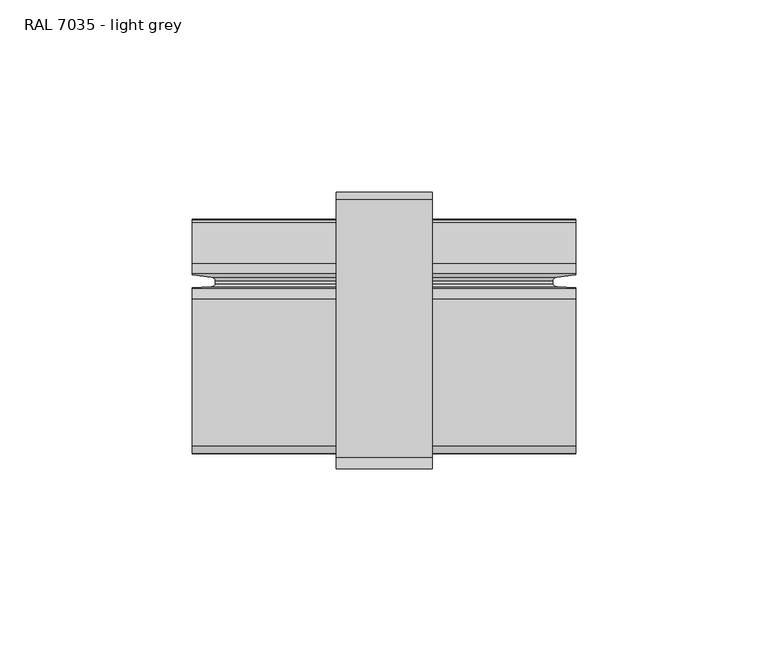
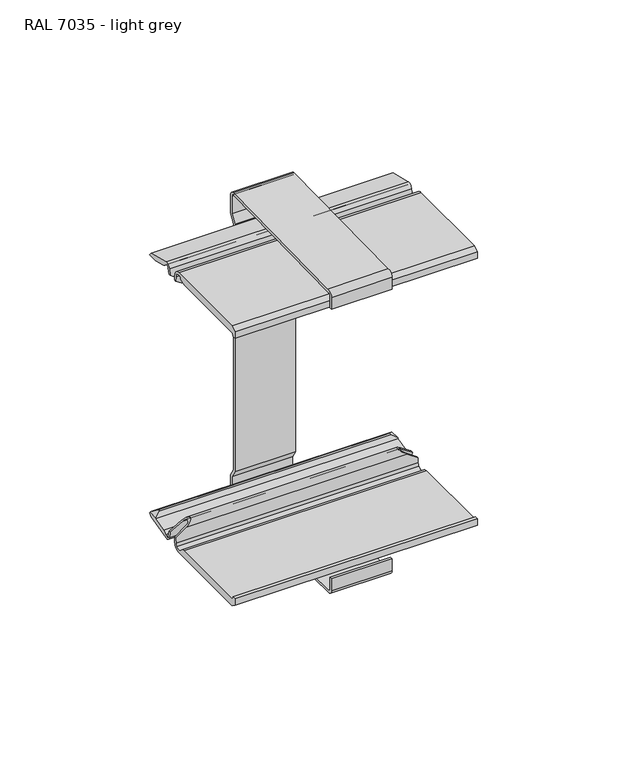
"""IFC4 building model written with IfcOpenShell, lengths in millimetres: cable carrier fitting geometry, Electrical_Installations_Hager_BRP-Cover-Joint-And-Coupling-Set-One-Compartment : RAL 7035 - light grey."""

from ifc_helpers import new_model, si_unit, point, frame, frame_2d, origin, place, context, project, spatial, polyline, circle_curve, ellipse_curve, trimmed, segment, composite_curve, outline, extrude, source, transform, mapped, element, save
from ifc_brep_helpers import plane_surface, cylinder_surface, revolved_surface, advanced_brep


def ral_7035_light_grey_a576d7a5(model_context):
    return source(origin(), model_context, "Body", "SolidModel", [
        advanced_brep(
        [(62.4539331, 9.9349646, -61.0), (62.4539331, 12.8937369, -58.1922299), (62.4539331, 13.0071302, -56.0285563), (62.4539331, 12.2060324, -56.0285563), (62.4539331, 12.0972278, -58.1046719), (62.4539331, 11.5722919, -59.3374822), (62.4539331, 8.6154068, -59.3374822), (62.4539331, 6.2408586, -58.0), (62.4539331, -28.4602638, -58.0), (62.4539331, -28.6935202, -56.8), (62.4539331, -30.1909579, -56.8), (62.4539331, -30.1909579, -59.5922147), (62.4539331, -28.1804322, -61.0), (62.4539331, 17.5959093, -58.5220563), (62.4539331, 17.156238, -56.0285563), (62.4539331, 16.3438967, -56.0285563), (62.4539331, 16.7875988, -58.5449161), (62.4539331, 19.2813243, -60.1597234), (62.4539331, 29.987087, -57.4606875), (62.4539331, 30.6071146, -56.6025774), (62.4539331, 30.713567, -56.0285563), (62.4539331, 26.7038341, -56.0285563), (62.4539331, 26.5295278, -56.269794), (62.4539331, 20.75928, -57.7245344), (62.4539331, 19.3924465, -58.8388343), (-37.4991238, 9.9349646, -61.0), (-37.4991238, -28.1804322, -61.0), (-37.4991238, -30.1909579, -59.5922147), (-37.4991238, -30.1909579, -56.8), (-37.4991238, -28.6935202, -56.8), (-37.4991238, -28.4602638, -58.0), (-37.4991238, 6.2408586, -58.0), (-37.4991238, 8.6154068, -59.3374822), (-37.4991238, 11.5722919, -59.3374822), (-37.4991238, 12.0972278, -58.1046719), (-37.4991238, 12.2043745, -56.0601898), (-37.4991238, 13.0054724, -56.0601898), (-37.4991238, 12.8937369, -58.1922299), (-37.4991238, 16.7875988, -58.5449161), (-37.4991238, 16.3494745, -56.0601898), (-37.4991238, 17.1618158, -56.0601898), (-37.4991238, 17.5959093, -58.5220563), (-37.4991238, 19.3924465, -58.8388343), (-37.4991238, 20.75928, -57.7245344), (-37.4991238, 26.5295278, -56.269794), (-37.4991238, 26.6809773, -56.0601898), (-37.4991238, 30.7211446, -56.0601898), (-37.4991238, 30.6071146, -56.6025774), (-37.4991238, 29.987087, -57.4606875), (-37.4991238, 19.2813243, -60.1597234), (57.9778928, 12.3702379, -52.8953281), (-32.9778928, 12.3702379, -52.8953281), (57.6312864, 16.5609841, -52.6527036), (-32.6312864, 16.5609841, -52.6527036), (60.3582956, 27.7637764, -54.5616101), (-35.3582956, 27.7637764, -54.5616101), (60.1356976, 28.7311779, -54.4057914), (-35.1356976, 28.7311779, -54.4057914), (61.9137661, 30.4537544, -55.6504394), (-36.9137661, 30.4537544, -55.6504394), (57.5108131, 15.7337729, -52.5683724), (-32.5108131, 15.7337729, -52.5683724), (56.4131383, 14.8180624, -51.8), (-31.4131383, 14.8180624, -51.8), (56.4131383, 14.0248885, -51.8), (-31.4131383, 14.0248885, -51.8), (57.5489353, 13.1870723, -52.5950579), (-32.5489353, 13.1870723, -52.5950579)],
        [
            (0, 1, circle_curve(frame((62.4539331, 9.9349646, -58.0371673), z_axis=(1.0, 0.0, 0.0), x_axis=(0.0, 1.0, 0.0)), 2.9628327)),
            (1, 2),
            (2, 3),
            (3, 4),
            (4, 5, circle_curve(frame((62.4539331, 10.1471153, -58.0024709), z_axis=(-1.0, 0.0, 0.0), x_axis=(0.0, 1.0, 0.0)), 1.9527887)),
            (5, 6, circle_curve(frame((62.4539331, 10.0938494, -58.0511502), z_axis=(-1.0, 0.0, 0.0), x_axis=(0.0, 1.0, 0.0)), 1.9597046)),
            (6, 7, circle_curve(frame((62.4539331, 6.1704137, -60.9016788), z_axis=(1.0, 0.0, 0.0), x_axis=(0.0, 1.0, 0.0)), 2.9025338)),
            (7, 8),
            (8, 9),
            (9, 10),
            (10, 11),
            (11, 12),
            (12, 0),
            (13, 14),
            (14, 15),
            (15, 16),
            (16, 17, circle_curve(frame((62.4539331, 18.7854041, -58.1926491), z_axis=(1.0, 0.0, 0.0), x_axis=(0.0, 1.0, 0.0)), 2.0286246)),
            (17, 18),
            (18, 19),
            (19, 20, circle_curve(frame((62.4539331, 30.0543655, -56.2031885), z_axis=(1.0, 0.0, 0.0), x_axis=(0.0, 1.0, 0.0)), 0.6819406)),
            (20, 21),
            (21, 22),
            (22, 23),
            (23, 24, circle_curve(frame((62.4539331, 21.9440803, -60.5732952), z_axis=(1.0, 0.0, 0.0), x_axis=(0.0, 1.0, 0.0)), 3.0853184)),
            (24, 13, circle_curve(frame((62.4539331, 18.5653797, -58.2766396), z_axis=(-1.0, 0.0, 0.0), x_axis=(0.0, 1.0, 0.0)), 1.0000511)),
            (25, 26),
            (26, 27),
            (27, 28),
            (28, 29),
            (29, 30),
            (30, 31),
            (31, 32, circle_curve(frame((-37.4991238, 6.1704137, -60.9016788), z_axis=(-1.0, 0.0, 0.0), x_axis=(0.0, 1.0, 0.0)), 2.9025338)),
            (32, 33, circle_curve(frame((-37.4991238, 10.0938494, -58.0511502), z_axis=(1.0, 0.0, 0.0), x_axis=(0.0, 1.0, 0.0)), 1.9597046)),
            (33, 34, circle_curve(frame((-37.4991238, 10.1471153, -58.0024709), z_axis=(1.0, 0.0, 0.0), x_axis=(0.0, 1.0, 0.0)), 1.9527887)),
            (34, 35),
            (35, 36),
            (36, 37),
            (37, 25, circle_curve(frame((-37.4991238, 9.9349646, -58.0371673), z_axis=(-1.0, 0.0, 0.0), x_axis=(0.0, 1.0, 0.0)), 2.9628327)),
            (38, 39),
            (39, 40),
            (40, 41),
            (41, 42, circle_curve(frame((-37.4991238, 18.5653797, -58.2766396), z_axis=(1.0, 0.0, 0.0), x_axis=(0.0, 1.0, 0.0)), 1.0000511)),
            (42, 43, circle_curve(frame((-37.4991238, 21.9440803, -60.5732952), z_axis=(-1.0, 0.0, 0.0), x_axis=(0.0, 1.0, 0.0)), 3.0853184)),
            (43, 44),
            (44, 45),
            (45, 46),
            (46, 47, circle_curve(frame((-37.4991238, 30.0543655, -56.2031885), z_axis=(-1.0, 0.0, 0.0), x_axis=(0.0, 1.0, 0.0)), 0.6819406)),
            (47, 48),
            (48, 49),
            (49, 38, circle_curve(frame((-37.4991238, 18.7854041, -58.1926491), z_axis=(-1.0, 0.0, 0.0), x_axis=(0.0, 1.0, 0.0)), 2.0286246)),
            (12, 26),
            (25, 0),
            (11, 27),
            (10, 28),
            (9, 29),
            (8, 30),
            (7, 31),
            (6, 32),
            (5, 33),
            (4, 34),
            (3, 50),
            (50, 51),
            (51, 35),
            (50, 52, ellipse_curve(frame((58.1555194, 14.479833, -53.0196667), z_axis=(-0.5734623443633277, 0.0, -0.8192319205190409), x_axis=(0.819231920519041, 0.0, -0.5734623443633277)), 3.6850827, 2.1132562)),
            (52, 53),
            (53, 51, ellipse_curve(frame((-33.1555194, 14.479833, -53.0196667), z_axis=(0.573462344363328, 0.0, -0.8192319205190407), x_axis=(0.8192319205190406, 0.0, 0.573462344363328)), 3.6850827, 2.1132562)),
            (40, 53),
            (52, 14),
            (13, 41),
            (24, 42),
            (23, 43),
            (22, 44),
            (21, 54),
            (54, 55),
            (55, 45),
            (54, 56, ellipse_curve(frame((60.9379976, 28.3253864, -54.9674015), z_axis=(-0.5734623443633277, 0.0, -0.8192319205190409), x_axis=(0.819231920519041, 0.0, -0.5734623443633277)), 1.208227, 0.6928727)),
            (56, 57),
            (57, 55, ellipse_curve(frame((-35.9379976, 28.3253864, -54.9674015), z_axis=(0.573462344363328, 0.0, -0.8192319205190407), x_axis=(0.8192319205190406, 0.0, 0.573462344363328)), 1.208227, 0.6928727)),
            (56, 58),
            (58, 59),
            (59, 57),
            (46, 59, ellipse_curve(frame((-37.7034076, 30.0543655, -56.2031885), z_axis=(0.573462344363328, 0.0, -0.8192319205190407), x_axis=(0.8192319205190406, 0.0, 0.573462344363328)), 1.1891637, 0.6819406)),
            (58, 20, ellipse_curve(frame((62.7034076, 30.0543655, -56.2031885), z_axis=(-0.5734623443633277, 0.0, -0.8192319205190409), x_axis=(0.819231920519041, 0.0, -0.5734623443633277)), 1.1891637, 0.6819406)),
            (19, 47),
            (18, 48),
            (17, 49),
            (16, 38),
            (15, 60),
            (60, 61),
            (61, 39),
            (60, 62, ellipse_curve(frame((57.7414767, 14.8180624, -52.7298368), z_axis=(0.5734623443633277, 0.0, 0.8192319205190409), x_axis=(-0.819231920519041, 0.0, 0.5734623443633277)), 1.6214436, 0.9298368)),
            (62, 63),
            (63, 61, ellipse_curve(frame((-32.7414767, 14.8180624, -52.7298368), z_axis=(-0.573462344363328, 0.0, 0.8192319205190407), x_axis=(-0.8192319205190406, 0.0, -0.573462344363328)), 1.6214436, 0.9298368)),
            (62, 64),
            (64, 65),
            (65, 63),
            (64, 66, ellipse_curve(frame((57.6116611, 14.0248885, -52.638966), z_axis=(0.5734623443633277, 0.0, 0.8192319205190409), x_axis=(-0.819231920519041, 0.0, 0.5734623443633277)), 1.4629835, 0.838966)),
            (66, 67),
            (67, 65, ellipse_curve(frame((-32.6116611, 14.0248885, -52.638966), z_axis=(-0.573462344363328, 0.0, 0.8192319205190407), x_axis=(-0.8192319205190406, 0.0, -0.573462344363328)), 1.4629835, 0.838966)),
            (36, 67),
            (66, 2),
            (1, 37),
        ],
        [
            plane_surface(frame((62.4539331, -28.1804322, -61.0), z_axis=(1.0, 0.0, 0.0), x_axis=(0.0, -1.0, 0.0))),
            plane_surface(frame((-37.4991238, -28.1804322, -61.0), z_axis=(-1.0, 0.0, 0.0), x_axis=(0.0, 1.0, 0.0))),
            plane_surface(frame((62.4539331, 9.9349646, -61.0), z_axis=(0.0, 0.0, -1.0), x_axis=(-1.0, 0.0, 0.0))),
            plane_surface(frame((62.4539331, -28.1804322, -61.0), z_axis=(0.0, -0.5735764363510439, -0.8191520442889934), x_axis=(-1.0, 0.0, 0.0))),
            plane_surface(frame((62.4539331, -30.1909579, -59.5922147), z_axis=(0.0, -1.0, 0.0), x_axis=(-1.0, 0.0, 0.0))),
            plane_surface(frame((62.4539331, -30.1909579, -56.8), z_axis=(0.0, 0.0, 1.0), x_axis=(-1.0, 0.0, 0.0))),
            plane_surface(frame((62.4539331, -28.6935202, -56.8), z_axis=(0.0, 0.9816271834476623, 0.19080899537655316), x_axis=(-1.0, 0.0, 0.0))),
            plane_surface(frame((62.4539331, -28.4602638, -58.0), z_axis=(0.0, 0.0, 1.0), x_axis=(-1.0, 0.0, 0.0))),
            cylinder_surface(frame((-37.4991238, 6.1704137, -60.9016788), z_axis=(1.0, 0.0, 0.0), x_axis=(0.0, 1.0, 0.0)), 2.9025338),
            revolved_surface(polyline([(-37.4991238, 12.053554, -58.0511502), (62.45393310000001, 12.053554, -58.0511502)]), (-37.4991238, 10.0938494, -58.0511502), (-1.0, 0.0, 0.0)),
            revolved_surface(polyline([(-37.4991238, 12.099903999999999, -58.0024709), (62.45393310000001, 12.099903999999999, -58.0024709)]), (-37.4991238, 10.1471153, -58.0024709), (-1.0, 0.0, 0.0)),
            plane_surface(frame((62.4539331, 12.0972278, -58.1046719), z_axis=(0.0, -0.9986295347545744, 0.05233595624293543), x_axis=(-1.0, 0.0, 0.0))),
            cylinder_surface(frame((-37.4991238, 14.479833, -53.0196667), z_axis=(1.0, 0.0, 0.0), x_axis=(0.0, 1.0, 0.0)), 2.1132562),
            plane_surface(frame((62.4539331, 16.5609841, -52.6527036), z_axis=(0.0, 0.9848077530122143, 0.173648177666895), x_axis=(-1.0, 0.0, 0.0))),
            revolved_surface(polyline([(-37.4991238, 19.5654308, -58.2766396), (62.45393310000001, 19.5654308, -58.2766396)]), (-37.4991238, 18.5653797, -58.2766396), (-1.0, 0.0, 0.0)),
            cylinder_surface(frame((-37.4991238, 21.9440803, -60.5732952), z_axis=(1.0, 0.0, 0.0), x_axis=(0.0, 1.0, 0.0)), 3.0853184),
            plane_surface(frame((62.4539331, 20.75928, -57.7245344), z_axis=(0.0, -0.24446129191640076, 0.9696590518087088), x_axis=(-1.0, 0.0, 0.0))),
            plane_surface(frame((62.4539331, 26.5295278, -56.269794), z_axis=(0.0, -0.8105530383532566, 0.5856652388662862), x_axis=(-1.0, 0.0, 0.0))),
            cylinder_surface(frame((-37.4991238, 28.3253864, -54.9674015), z_axis=(1.0, 0.0, 0.0), x_axis=(0.0, 1.0, 0.0)), 0.6928727),
            plane_surface(frame((62.4539331, 28.7311779, -54.4057914), z_axis=(0.0, 0.585665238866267, 0.8105530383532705), x_axis=(-1.0, 0.0, 0.0))),
            cylinder_surface(frame((-37.4991238, 30.0543655, -56.2031885), z_axis=(1.0, 0.0, 0.0), x_axis=(0.0, 1.0, 0.0)), 0.6819406),
            plane_surface(frame((62.4539331, 30.6071146, -56.6025774), z_axis=(0.0, 0.8105530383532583, -0.585665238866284), x_axis=(-1.0, 0.0, 0.0))),
            plane_surface(frame((62.4539331, 29.987087, -57.4606875), z_axis=(0.0, 0.24446129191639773, -0.9696590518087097), x_axis=(-1.0, 0.0, 0.0))),
            cylinder_surface(frame((-37.4991238, 18.7854041, -58.1926491), z_axis=(1.0, 0.0, 0.0), x_axis=(0.0, 1.0, 0.0)), 2.0286246),
            plane_surface(frame((62.4539331, 16.7875988, -58.5449161), z_axis=(0.0, -0.9848077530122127, -0.17364817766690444), x_axis=(-1.0, 0.0, 0.0))),
            revolved_surface(polyline([(-34.06981505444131, 15.7478992, -52.7298368), (59.069815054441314, 15.7478992, -52.7298368)]), (-37.4991238, 14.8180624, -52.7298368), (-1.0, 0.0, 0.0)),
            plane_surface(frame((62.4539331, 14.8180624, -51.8), z_axis=(0.0, 0.0, -1.0), x_axis=(-1.0, 0.0, 0.0))),
            revolved_surface(polyline([(-33.810183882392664, 14.863854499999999, -52.638966), (58.81018388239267, 14.863854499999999, -52.638966)]), (-37.4991238, 14.0248885, -52.638966), (-1.0, 0.0, 0.0)),
            plane_surface(frame((62.4539331, 13.1870723, -52.5950579), z_axis=(0.0, 0.9986295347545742, -0.05233595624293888), x_axis=(-1.0, 0.0, 0.0))),
            cylinder_surface(frame((-37.4991238, 9.9349646, -58.0371673), z_axis=(1.0, 0.0, 0.0), x_axis=(0.0, 1.0, 0.0)), 2.9628327),
            plane_surface(frame((-29.049591, -36.0, -50.1455169), z_axis=(-0.573462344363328, 0.0, 0.8192319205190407), x_axis=(0.0, 1.0, 0.0))),
            plane_surface(frame((63.0724089, -36.0, -56.4614894), z_axis=(0.5734623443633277, 0.0, 0.8192319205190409), x_axis=(0.0, 1.0, 0.0))),
        ],
        [
            (0, [[1, 2, 3, 4, 5, 6, 7, 8, 9, 10, 11, 12, 13]]),
            (0, [[14, 15, 16, 17, 18, 19, 20, 21, 22, 23, 24, 25]]),
            (1, [[26, 27, 28, 29, 30, 31, 32, 33, 34, 35, 36, 37, 38]]),
            (1, [[39, 40, 41, 42, 43, 44, 45, 46, 47, 48, 49, 50]]),
            (2, [[51, -26, 52, -13]]),
            (3, [[53, -27, -51, -12]]),
            (4, [[54, -28, -53, -11]]),
            (5, [[55, -29, -54, -10]]),
            (6, [[56, -30, -55, -9]]),
            (7, [[57, -31, -56, -8]]),
            (8, [[58, -32, -57, -7]]),
            (9, [[59, -33, -58, -6]]),
            (10, [[60, -34, -59, -5]]),
            (11, [[-4, 61, 62, 63, -35, -60]]),
            (12, [[-62, 64, 65, 66]]),
            (13, [[-41, 67, -65, 68, -14, 69]]),
            (14, [[70, -42, -69, -25]]),
            (15, [[71, -43, -70, -24]]),
            (16, [[72, -44, -71, -23]]),
            (17, [[-22, 73, 74, 75, -45, -72]]),
            (18, [[-74, 76, 77, 78]]),
            (19, [[-77, 79, 80, 81]]),
            (20, [[-47, 82, -80, 83, -20, 84]]),
            (21, [[85, -48, -84, -19]]),
            (22, [[86, -49, -85, -18]]),
            (23, [[87, -50, -86, -17]]),
            (24, [[-16, 88, 89, 90, -39, -87]]),
            (25, [[-89, 91, 92, 93]]),
            (26, [[-92, 94, 95, 96]]),
            (27, [[-95, 97, 98, 99]]),
            (28, [[-37, 100, -98, 101, -2, 102]]),
            (29, [[-52, -38, -102, -1]]),
            (30, [[-63, -66, -67, -40, -90, -93, -96, -99, -100, -36]]),
            (30, [[-75, -78, -81, -82, -46]]),
            (31, [[-83, -79, -76, -73, -21]]),
            (31, [[-101, -97, -94, -91, -88, -15, -68, -64, -61, -3]]),
        ],
    ),
        advanced_brep(
        [(62.4539331, 9.9349646, 61.0), (62.4539331, -28.1804322, 61.0), (62.4539331, -30.1909579, 59.5922147), (62.4539331, -30.1909579, 56.8), (62.4539331, -28.6935202, 56.8), (62.4539331, -28.4602638, 58.0), (62.4539331, 6.2408586, 58.0), (62.4539331, 8.6154068, 59.3374822), (62.4539331, 11.5722919, 59.3374822), (62.4539331, 12.0972278, 58.1046719), (62.4539331, 12.2060324, 56.0285563), (62.4539331, 13.0071302, 56.0285563), (62.4539331, 12.8937369, 58.1922299), (62.4539331, 17.5959093, 58.5220563), (62.4539331, 19.3924465, 58.8388343), (62.4539331, 20.75928, 57.7245344), (62.4539331, 26.5295278, 56.269794), (62.4539331, 26.7038341, 56.0285563), (62.4539331, 30.713567, 56.0285563), (62.4539331, 30.6071146, 56.6025774), (62.4539331, 29.987087, 57.4606875), (62.4539331, 19.2813243, 60.1597234), (62.4539331, 16.7875988, 58.5449161), (62.4539331, 16.3438967, 56.0285563), (62.4539331, 17.156238, 56.0285563), (-37.4991238, 9.9349646, 61.0), (-37.4991238, 12.8937369, 58.1922299), (-37.4991238, 13.0054724, 56.0601898), (-37.4991238, 12.2043745, 56.0601898), (-37.4991238, 12.0972278, 58.1046719), (-37.4991238, 11.5722919, 59.3374822), (-37.4991238, 8.6154068, 59.3374822), (-37.4991238, 6.2408586, 58.0), (-37.4991238, -28.4602638, 58.0), (-37.4991238, -28.6935202, 56.8), (-37.4991238, -30.1909579, 56.8), (-37.4991238, -30.1909579, 59.5922147), (-37.4991238, -28.1804322, 61.0), (-37.4991238, 16.7875988, 58.5449161), (-37.4991238, 19.2813243, 60.1597234), (-37.4991238, 29.987087, 57.4606875), (-37.4991238, 30.6071146, 56.6025774), (-37.4991238, 30.7211446, 56.0601898), (-37.4991238, 26.6809773, 56.0601898), (-37.4991238, 26.5295278, 56.269794), (-37.4991238, 20.75928, 57.7245344), (-37.4991238, 19.3924465, 58.8388343), (-37.4991238, 17.5959093, 58.5220563), (-37.4991238, 17.1618158, 56.0601898), (-37.4991238, 16.3494745, 56.0601898), (-32.9778928, 12.3702379, 52.8953281), (57.9778928, 12.3702379, 52.8953281), (-32.6312864, 16.5609841, 52.6527036), (57.6312864, 16.5609841, 52.6527036), (-35.3582956, 27.7637764, 54.5616101), (60.3582956, 27.7637764, 54.5616101), (-35.1356976, 28.7311779, 54.4057914), (60.1356976, 28.7311779, 54.4057914), (-36.9137661, 30.4537544, 55.6504394), (61.9137661, 30.4537544, 55.6504394), (-32.5108131, 15.7337729, 52.5683724), (57.5108131, 15.7337729, 52.5683724), (-31.4131383, 14.8180624, 51.8), (56.4131383, 14.8180624, 51.8), (-31.4131383, 14.0248885, 51.8), (56.4131383, 14.0248885, 51.8), (-32.5489353, 13.1870723, 52.5950579), (57.5489353, 13.1870723, 52.5950579)],
        [
            (0, 1),
            (1, 2),
            (2, 3),
            (3, 4),
            (4, 5),
            (5, 6),
            (6, 7, circle_curve(frame((62.4539331, 6.1704137, 60.9016788), z_axis=(1.0, 0.0, 0.0), x_axis=(0.0, 1.0, 0.0)), 2.9025338)),
            (7, 8, circle_curve(frame((62.4539331, 10.0938494, 58.0511502), z_axis=(-1.0, 0.0, 0.0), x_axis=(0.0, 1.0, 0.0)), 1.9597046)),
            (8, 9, circle_curve(frame((62.4539331, 10.1471153, 58.0024709), z_axis=(-1.0, 0.0, 0.0), x_axis=(0.0, 1.0, 0.0)), 1.9527887)),
            (9, 10),
            (10, 11),
            (11, 12),
            (12, 0, circle_curve(frame((62.4539331, 9.9349646, 58.0371673), z_axis=(1.0, 0.0, 0.0), x_axis=(0.0, 1.0, 0.0)), 2.9628327)),
            (13, 14, circle_curve(frame((62.4539331, 18.5653797, 58.2766396), z_axis=(-1.0, 0.0, 0.0), x_axis=(0.0, 1.0, 0.0)), 1.0000511)),
            (14, 15, circle_curve(frame((62.4539331, 21.9440803, 60.5732952), z_axis=(1.0, 0.0, 0.0), x_axis=(0.0, 1.0, 0.0)), 3.0853184)),
            (15, 16),
            (16, 17),
            (17, 18),
            (18, 19, circle_curve(frame((62.4539331, 30.0543655, 56.2031885), z_axis=(1.0, 0.0, 0.0), x_axis=(0.0, 1.0, 0.0)), 0.6819406)),
            (19, 20),
            (20, 21),
            (21, 22, circle_curve(frame((62.4539331, 18.7854041, 58.1926491), z_axis=(1.0, 0.0, 0.0), x_axis=(0.0, 1.0, 0.0)), 2.0286246)),
            (22, 23),
            (23, 24),
            (24, 13),
            (25, 26, circle_curve(frame((-37.4991238, 9.9349646, 58.0371673), z_axis=(-1.0, 0.0, 0.0), x_axis=(0.0, 1.0, 0.0)), 2.9628327)),
            (26, 27),
            (27, 28),
            (28, 29),
            (29, 30, circle_curve(frame((-37.4991238, 10.1471153, 58.0024709), z_axis=(1.0, 0.0, 0.0), x_axis=(0.0, 1.0, 0.0)), 1.9527887)),
            (30, 31, circle_curve(frame((-37.4991238, 10.0938494, 58.0511502), z_axis=(1.0, 0.0, 0.0), x_axis=(0.0, 1.0, 0.0)), 1.9597046)),
            (31, 32, circle_curve(frame((-37.4991238, 6.1704137, 60.9016788), z_axis=(-1.0, 0.0, 0.0), x_axis=(0.0, 1.0, 0.0)), 2.9025338)),
            (32, 33),
            (33, 34),
            (34, 35),
            (35, 36),
            (36, 37),
            (37, 25),
            (38, 39, circle_curve(frame((-37.4991238, 18.7854041, 58.1926491), z_axis=(-1.0, 0.0, 0.0), x_axis=(0.0, 1.0, 0.0)), 2.0286246)),
            (39, 40),
            (40, 41),
            (41, 42, circle_curve(frame((-37.4991238, 30.0543655, 56.2031885), z_axis=(-1.0, 0.0, 0.0), x_axis=(0.0, 1.0, 0.0)), 0.6819406)),
            (42, 43),
            (43, 44),
            (44, 45),
            (45, 46, circle_curve(frame((-37.4991238, 21.9440803, 60.5732952), z_axis=(-1.0, 0.0, 0.0), x_axis=(0.0, 1.0, 0.0)), 3.0853184)),
            (46, 47, circle_curve(frame((-37.4991238, 18.5653797, 58.2766396), z_axis=(1.0, 0.0, 0.0), x_axis=(0.0, 1.0, 0.0)), 1.0000511)),
            (47, 48),
            (48, 49),
            (49, 38),
            (0, 25),
            (37, 1),
            (36, 2),
            (35, 3),
            (34, 4),
            (33, 5),
            (32, 6),
            (31, 7),
            (30, 8),
            (29, 9),
            (28, 50),
            (50, 51),
            (51, 10),
            (50, 52, ellipse_curve(frame((-33.1555194, 14.479833, 53.0196667), z_axis=(0.573462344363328, 0.0, 0.8192319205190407), x_axis=(0.8192319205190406, 0.0, -0.573462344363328)), 3.6850827, 2.1132562)),
            (52, 53),
            (53, 51, ellipse_curve(frame((58.1555194, 14.479833, 53.0196667), z_axis=(-0.5734623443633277, 0.0, 0.8192319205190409), x_axis=(0.819231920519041, 0.0, 0.5734623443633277)), 3.6850827, 2.1132562)),
            (47, 13),
            (24, 53),
            (52, 48),
            (46, 14),
            (45, 15),
            (44, 16),
            (43, 54),
            (54, 55),
            (55, 17),
            (54, 56, ellipse_curve(frame((-35.9379976, 28.3253864, 54.9674015), z_axis=(0.573462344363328, 0.0, 0.8192319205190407), x_axis=(0.8192319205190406, 0.0, -0.573462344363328)), 1.208227, 0.6928727)),
            (56, 57),
            (57, 55, ellipse_curve(frame((60.9379976, 28.3253864, 54.9674015), z_axis=(-0.5734623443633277, 0.0, 0.8192319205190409), x_axis=(0.819231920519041, 0.0, 0.5734623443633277)), 1.208227, 0.6928727)),
            (56, 58),
            (58, 59),
            (59, 57),
            (41, 19),
            (18, 59, ellipse_curve(frame((62.7034076, 30.0543655, 56.2031885), z_axis=(-0.5734623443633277, 0.0, 0.8192319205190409), x_axis=(0.819231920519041, 0.0, 0.5734623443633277)), 1.1891637, 0.6819406)),
            (58, 42, ellipse_curve(frame((-37.7034076, 30.0543655, 56.2031885), z_axis=(0.573462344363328, 0.0, 0.8192319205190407), x_axis=(0.8192319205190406, 0.0, -0.573462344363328)), 1.1891637, 0.6819406)),
            (40, 20),
            (39, 21),
            (38, 22),
            (49, 60),
            (60, 61),
            (61, 23),
            (60, 62, ellipse_curve(frame((-32.7414767, 14.8180624, 52.7298368), z_axis=(-0.573462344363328, 0.0, -0.8192319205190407), x_axis=(-0.8192319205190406, 0.0, 0.573462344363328)), 1.6214436, 0.9298368)),
            (62, 63),
            (63, 61, ellipse_curve(frame((57.7414767, 14.8180624, 52.7298368), z_axis=(0.5734623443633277, 0.0, -0.8192319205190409), x_axis=(-0.819231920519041, 0.0, -0.5734623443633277)), 1.6214436, 0.9298368)),
            (62, 64),
            (64, 65),
            (65, 63),
            (64, 66, ellipse_curve(frame((-32.6116611, 14.0248885, 52.638966), z_axis=(-0.573462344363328, 0.0, -0.8192319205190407), x_axis=(-0.8192319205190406, 0.0, 0.573462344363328)), 1.4629835, 0.838966)),
            (66, 67),
            (67, 65, ellipse_curve(frame((57.6116611, 14.0248885, 52.638966), z_axis=(0.5734623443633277, 0.0, -0.8192319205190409), x_axis=(-0.819231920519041, 0.0, -0.5734623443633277)), 1.4629835, 0.838966)),
            (26, 12),
            (11, 67),
            (66, 27),
        ],
        [
            plane_surface(frame((62.4539331, -28.1804322, 61.0), z_axis=(1.0, 0.0, 0.0), x_axis=(0.0, -1.0, 0.0))),
            plane_surface(frame((-37.4991238, -28.1804322, 61.0), z_axis=(-1.0, 0.0, 0.0), x_axis=(0.0, 1.0, 0.0))),
            plane_surface(frame((62.4539331, 9.9349646, 61.0), z_axis=(0.0, 0.0, 1.0), x_axis=(-1.0, 0.0, 0.0))),
            plane_surface(frame((62.4539331, -28.1804322, 61.0), z_axis=(0.0, -0.5735764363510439, 0.8191520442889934), x_axis=(-1.0, 0.0, 0.0))),
            plane_surface(frame((62.4539331, -30.1909579, 59.5922147), z_axis=(0.0, -1.0, 0.0), x_axis=(-1.0, 0.0, 0.0))),
            plane_surface(frame((62.4539331, -30.1909579, 56.8), z_axis=(0.0, 0.0, -1.0), x_axis=(-1.0, 0.0, 0.0))),
            plane_surface(frame((62.4539331, -28.6935202, 56.8), z_axis=(0.0, 0.9816271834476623, -0.19080899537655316), x_axis=(-1.0, 0.0, 0.0))),
            plane_surface(frame((62.4539331, -28.4602638, 58.0), z_axis=(0.0, 0.0, -1.0), x_axis=(-1.0, 0.0, 0.0))),
            cylinder_surface(frame((-37.4991238, 6.1704137, 60.9016788), z_axis=(1.0, 0.0, 0.0), x_axis=(0.0, 1.0, 0.0)), 2.9025338),
            revolved_surface(polyline([(-37.4991238, 12.053554, 58.0511502), (62.45393310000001, 12.053554, 58.0511502)]), (-37.4991238, 10.0938494, 58.0511502), (-1.0, 0.0, 0.0)),
            revolved_surface(polyline([(-37.4991238, 12.099903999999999, 58.0024709), (62.45393310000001, 12.099903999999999, 58.0024709)]), (-37.4991238, 10.1471153, 58.0024709), (-1.0, 0.0, 0.0)),
            plane_surface(frame((62.4539331, 12.0972278, 58.1046719), z_axis=(0.0, -0.9986295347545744, -0.05233595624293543), x_axis=(-1.0, 0.0, 0.0))),
            cylinder_surface(frame((-37.4991238, 14.479833, 53.0196667), z_axis=(1.0, 0.0, 0.0), x_axis=(0.0, 1.0, 0.0)), 2.1132562),
            plane_surface(frame((62.4539331, 16.5609841, 52.6527036), z_axis=(0.0, 0.9848077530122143, -0.173648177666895), x_axis=(-1.0, 0.0, 0.0))),
            revolved_surface(polyline([(-37.4991238, 19.5654308, 58.2766396), (62.45393310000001, 19.5654308, 58.2766396)]), (-37.4991238, 18.5653797, 58.2766396), (-1.0, 0.0, 0.0)),
            cylinder_surface(frame((-37.4991238, 21.9440803, 60.5732952), z_axis=(1.0, 0.0, 0.0), x_axis=(0.0, 1.0, 0.0)), 3.0853184),
            plane_surface(frame((62.4539331, 20.75928, 57.7245344), z_axis=(0.0, -0.24446129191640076, -0.9696590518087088), x_axis=(-1.0, 0.0, 0.0))),
            plane_surface(frame((62.4539331, 26.5295278, 56.269794), z_axis=(0.0, -0.8105530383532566, -0.5856652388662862), x_axis=(-1.0, 0.0, 0.0))),
            cylinder_surface(frame((-37.4991238, 28.3253864, 54.9674015), z_axis=(1.0, 0.0, 0.0), x_axis=(0.0, 1.0, 0.0)), 0.6928727),
            plane_surface(frame((62.4539331, 28.7311779, 54.4057914), z_axis=(0.0, 0.585665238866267, -0.8105530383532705), x_axis=(-1.0, 0.0, 0.0))),
            cylinder_surface(frame((-37.4991238, 30.0543655, 56.2031885), z_axis=(1.0, 0.0, 0.0), x_axis=(0.0, 1.0, 0.0)), 0.6819406),
            plane_surface(frame((62.4539331, 30.6071146, 56.6025774), z_axis=(0.0, 0.8105530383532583, 0.585665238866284), x_axis=(-1.0, 0.0, 0.0))),
            plane_surface(frame((62.4539331, 29.987087, 57.4606875), z_axis=(0.0, 0.24446129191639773, 0.9696590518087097), x_axis=(-1.0, 0.0, 0.0))),
            cylinder_surface(frame((-37.4991238, 18.7854041, 58.1926491), z_axis=(1.0, 0.0, 0.0), x_axis=(0.0, 1.0, 0.0)), 2.0286246),
            plane_surface(frame((62.4539331, 16.7875988, 58.5449161), z_axis=(0.0, -0.9848077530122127, 0.17364817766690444), x_axis=(-1.0, 0.0, 0.0))),
            revolved_surface(polyline([(-34.06981505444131, 15.7478992, 52.7298368), (59.069815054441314, 15.7478992, 52.7298368)]), (-37.4991238, 14.8180624, 52.7298368), (-1.0, 0.0, 0.0)),
            plane_surface(frame((62.4539331, 14.8180624, 51.8), z_axis=(0.0, 0.0, 1.0), x_axis=(-1.0, 0.0, 0.0))),
            revolved_surface(polyline([(-33.810183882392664, 14.863854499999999, 52.638966), (58.81018388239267, 14.863854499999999, 52.638966)]), (-37.4991238, 14.0248885, 52.638966), (-1.0, 0.0, 0.0)),
            plane_surface(frame((62.4539331, 13.1870723, 52.5950579), z_axis=(0.0, 0.9986295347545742, 0.05233595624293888), x_axis=(-1.0, 0.0, 0.0))),
            cylinder_surface(frame((-37.4991238, 9.9349646, 58.0371673), z_axis=(1.0, 0.0, 0.0), x_axis=(0.0, 1.0, 0.0)), 2.9628327),
            plane_surface(frame((-29.049591, -36.0, 50.1455169), z_axis=(-0.573462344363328, 0.0, -0.8192319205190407), x_axis=(0.0, 1.0, 0.0))),
            plane_surface(frame((63.0724089, -36.0, 56.4614894), z_axis=(0.5734623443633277, 0.0, -0.8192319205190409), x_axis=(0.0, 1.0, 0.0))),
        ],
        [
            (0, [[1, 2, 3, 4, 5, 6, 7, 8, 9, 10, 11, 12, 13]]),
            (0, [[14, 15, 16, 17, 18, 19, 20, 21, 22, 23, 24, 25]]),
            (1, [[26, 27, 28, 29, 30, 31, 32, 33, 34, 35, 36, 37, 38]]),
            (1, [[39, 40, 41, 42, 43, 44, 45, 46, 47, 48, 49, 50]]),
            (2, [[-1, 51, -38, 52]]),
            (3, [[-2, -52, -37, 53]]),
            (4, [[-3, -53, -36, 54]]),
            (5, [[-4, -54, -35, 55]]),
            (6, [[-5, -55, -34, 56]]),
            (7, [[-6, -56, -33, 57]]),
            (8, [[-7, -57, -32, 58]]),
            (9, [[-8, -58, -31, 59]]),
            (10, [[-9, -59, -30, 60]]),
            (11, [[-60, -29, 61, 62, 63, -10]]),
            (12, [[64, 65, 66, -62]]),
            (13, [[67, -25, 68, -65, 69, -48]]),
            (14, [[-14, -67, -47, 70]]),
            (15, [[-15, -70, -46, 71]]),
            (16, [[-16, -71, -45, 72]]),
            (17, [[-72, -44, 73, 74, 75, -17]]),
            (18, [[76, 77, 78, -74]]),
            (19, [[79, 80, 81, -77]]),
            (20, [[82, -19, 83, -80, 84, -42]]),
            (21, [[-20, -82, -41, 85]]),
            (22, [[-21, -85, -40, 86]]),
            (23, [[-22, -86, -39, 87]]),
            (24, [[-87, -50, 88, 89, 90, -23]]),
            (25, [[91, 92, 93, -89]]),
            (26, [[94, 95, 96, -92]]),
            (27, [[97, 98, 99, -95]]),
            (28, [[100, -12, 101, -98, 102, -27]]),
            (29, [[-13, -100, -26, -51]]),
            (30, [[-28, -102, -97, -94, -91, -88, -49, -69, -64, -61]]),
            (30, [[-43, -84, -79, -76, -73]]),
            (31, [[-11, -63, -66, -68, -24, -90, -93, -96, -99, -101]]),
            (31, [[-18, -75, -78, -81, -83]]),
        ],
    ),
        extrude(outline(composite_curve([segment(polyline([(-32.1085779, -64.9138034), (35.8565441, -66.1001348)]), True, "CONTINUOUS"), segment(trimmed(circle_curve(frame_2d((35.8740137, -65.0993009)), 1.0009863), [point((35.8565441, -66.1001348))], [point((36.875, -65.0993009))], True, "CARTESIAN"), True, "CONTINUOUS"), segment(polyline([(36.875, -65.0993009), (36.875, -57.3648633), (34.8722656, -53.8960256), (34.8722656, 53.8960256), (36.875, 57.3648633), (36.875, 64.9708268)]), True, "CONTINUOUS"), segment(trimmed(circle_curve(frame_2d((35.8484377, 64.9708268)), 1.0265623), [point((36.875, 64.9708268))], [point((35.8452591, 65.9973842))], True, "CARTESIAN"), True, "CONTINUOUS"), segment(polyline([(35.8452591, 65.9973842), (-32.1567027, 64.821136)]), True, "CONTINUOUS"), segment(trimmed(circle_curve(frame_2d((-32.1397104, 63.8387682)), 0.9825147), [point((-32.1567027, 64.821136))], [point((-33.1220754, 63.821621))], True, "CARTESIAN"), True, "CONTINUOUS"), segment(polyline([(-33.1220754, 63.821621), (-33.0345083, 58.8048999), (-34.1222656, 58.785913), (-34.1222656, 63.8271417)]), True, "CONTINUOUS"), segment(trimmed(circle_curve(frame_2d((-31.9938499, 63.8271417)), 2.1284157), [point((-34.1222656, 63.8271417))], [point((-31.2987662, 65.8388603))], False, "CARTESIAN"), True, "CONTINUOUS"), segment(polyline([(-31.2987662, 65.8388603), (35.8297331, 67.0)]), True, "CONTINUOUS"), segment(trimmed(circle_curve(frame_2d((35.8645095, 64.9898103)), 2.0104905), [point((35.8297331, 67.0))], [point((37.875, 64.9898103))], False, "CARTESIAN"), True, "CONTINUOUS"), segment(polyline([(37.875, 64.9898103), (37.875, 57.0969141), (35.875, 53.6328125), (35.875, -53.6328125), (37.8777344, -57.1016502), (37.8777344, -65.1886703)]), True, "CONTINUOUS"), segment(trimmed(circle_curve(frame_2d((35.9167634, -65.1886703)), 1.960971), [point((37.8777344, -65.1886703))], [point((36.3048885, -67.1108478))], False, "CARTESIAN"), True, "CONTINUOUS"), segment(polyline([(36.3048885, -67.1108478), (-32.8241883, -65.9041995)]), True, "CONTINUOUS"), segment(trimmed(circle_curve(frame_2d((-31.9936958, -63.9443291)), 2.1285698), [point((-32.8241883, -65.9041995))], [point((-34.1222656, -63.9443291))], False, "CARTESIAN"), True, "CONTINUOUS"), segment(polyline([(-34.1222656, -63.9443291), (-34.1222656, -58.7605487), (-33.0324634, -58.7795712), (-33.1212285, -63.8649242)]), True, "CONTINUOUS"), segment(trimmed(circle_curve(frame_2d((-32.0903393, -63.8829184)), 1.0310463), [point((-33.1212285, -63.8649242))], [point((-32.1085779, -64.9138034))], True, "CARTESIAN"), True, "CONTINUOUS")], self_intersect=False)), frame((0.0, 0.0, 0.0), z_axis=(1.0, 0.0, 0.0), x_axis=(0.0, 1.0, 0.0)), (0.0, 0.0, 1.0), 25.0),
    ])


if __name__ == "__main__":
    model = new_model("IFC4")
    model_context = context("Model", 3, world=origin())
    ifc_project = project(units=[si_unit("LENGTHUNIT", "METRE", prefix="MILLI")], contexts=[model_context])
    site = spatial("IfcSite", under=ifc_project)
    building = spatial("IfcBuilding", under=site)
    placement = place(None, origin())
    ral_7035_light_grey_shape = ral_7035_light_grey_a576d7a5(model_context)
    element("IfcCableCarrierFitting", 1, ObjectType="Electrical_Installations_Hager_BRP-Cover-Joint-And-Coupling-Set-One-Compartment : RAL 7035 - light grey", at=placement, inside=building, context=model_context, shape_type="MappedRepresentation", body=[
        mapped(ral_7035_light_grey_shape, transform((0.0, 0.0, 0.0), x_axis=(1.0, 0.0, 0.0), y_axis=(0.0, 1.0, 0.0), z_axis=(0.0, 0.0, 1.0))),
    ])
    save(model, "model.ifc")
